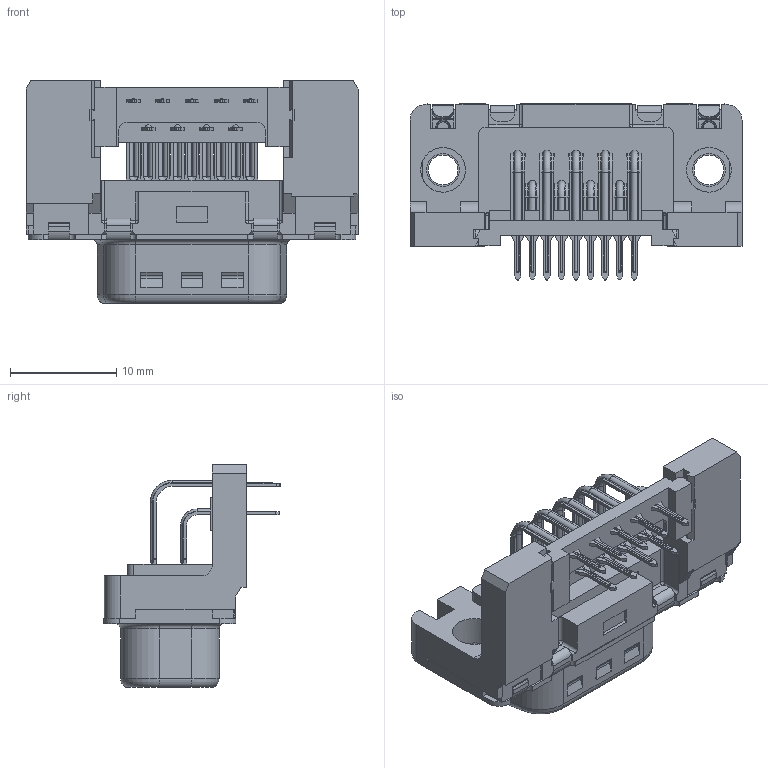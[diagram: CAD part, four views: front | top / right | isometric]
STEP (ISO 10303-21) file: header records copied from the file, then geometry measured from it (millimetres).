
FILE_DESCRIPTION(/* description */ (''),/* implementation_level */ '2;1');
FILE_NAME(/* name */ '100851195ugm000_a.stp',/* time_stamp */ '2019-08-29T03:45:06+02:00',/* author */ (''),/* organization */ (''),/* preprocessor_version */ 'ST-DEVELOPER v16.7',/* originating_system */ 'SIEMENS PLM Software NX 12.0',/* authorisation */ '');
FILE_SCHEMA (('AUTOMOTIVE_DESIGN { 1 0 10303 214 3 1 1 1 }'));
Products named in the file (1): 100851195ugm000_a
Bounding box: 31.2 x 16.57 x 20.95 mm (x, y, z)
Volume: 176.3 mm3; surface area: 3807.7 mm2
Topology: 1 solids, 2 shells, 1940 faces, 4997 edges, 3009 vertices
Faces by surface type: plane 839, cylinder 468, bspline 391, torus 138, sphere 78, cone 26
Full cylindrical faces by diameter (mm): 1.2 x4, 2.8 x2, 3.1 x2, 3.2 x2, 4.2 x2
Entity records: 82566 total; most frequent: CARTESIAN_POINT 25696, ORIENTED_EDGE 9624, DIRECTION 7972, EDGE_CURVE 4812, VERTEX_POINT 2953, AXIS2_PLACEMENT_3D 2784, LINE 2404, VECTOR 2404
